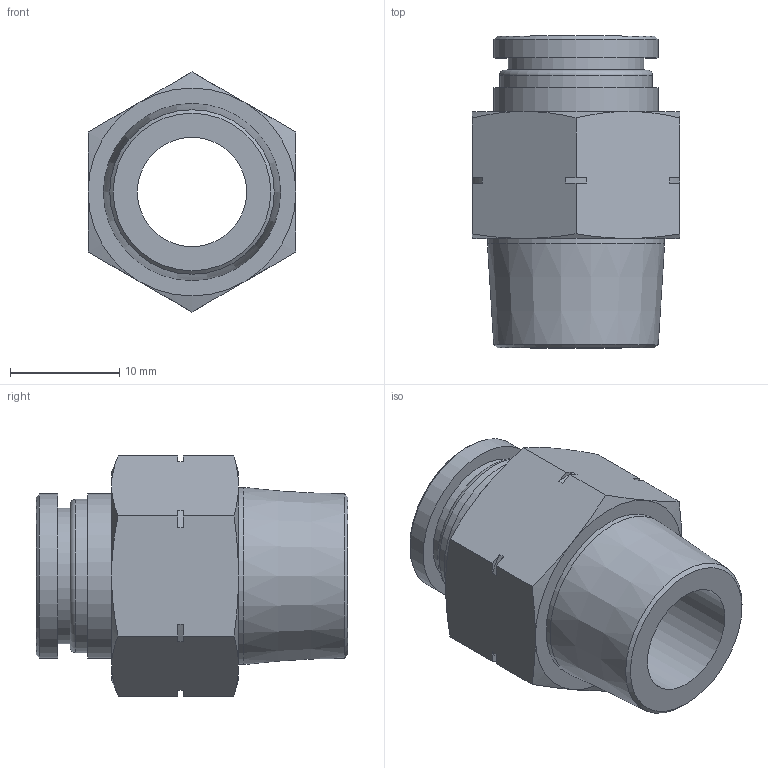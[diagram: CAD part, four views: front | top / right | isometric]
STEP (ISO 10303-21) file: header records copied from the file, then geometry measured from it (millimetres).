
FILE_DESCRIPTION(/* description */ (''),/* implementation_level */ '2;1');
FILE_NAME(/* name */ 'LXH11 0012 N3.stp',/* time_stamp */ '2026-04-19T15:07:38+02:00',/* author */ ('freju'),/* organization */ (''),/* preprocessor_version */ 'ST-DEVELOPER v20.1',/* originating_system */ 'Autodesk Inventor 2026',/* authorisation */ '');
FILE_SCHEMA (('AUTOMOTIVE_DESIGN { 1 0 10303 214 3 1 1 }'));
Length unit declared in the file: millimetre
Products named in the file (1): LXH11 0012 N3
Bounding box: 19 x 28.5 x 21.94 mm (x, y, z)
Volume: 3996.5 mm3; surface area: 3047.8 mm2
Topology: 1 solids, 1 shells, 55 faces, 128 edges, 81 vertices
Faces by surface type: plane 26, cone 15, cylinder 13, torus 1
Full cylindrical faces by diameter (mm): 10 x1, 12 x1, 12.4 x1, 14 x1, 15 x2, 16.189 x1
Entity records: 1587 total; most frequent: CARTESIAN_POINT 313, DIRECTION 262, ORIENTED_EDGE 256, EDGE_CURVE 128, AXIS2_PLACEMENT_3D 102, VERTEX_POINT 81, EDGE_LOOP 63, LINE 58
